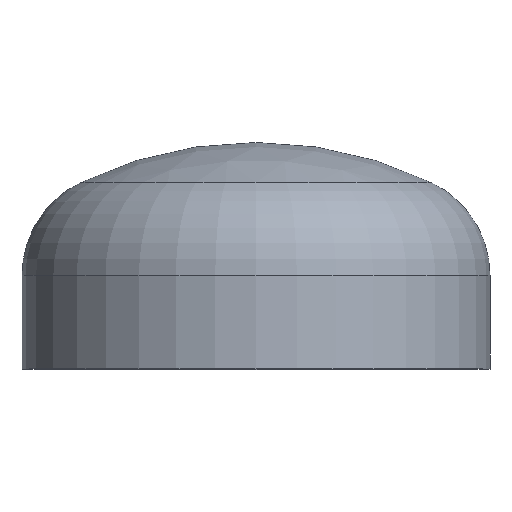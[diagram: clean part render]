
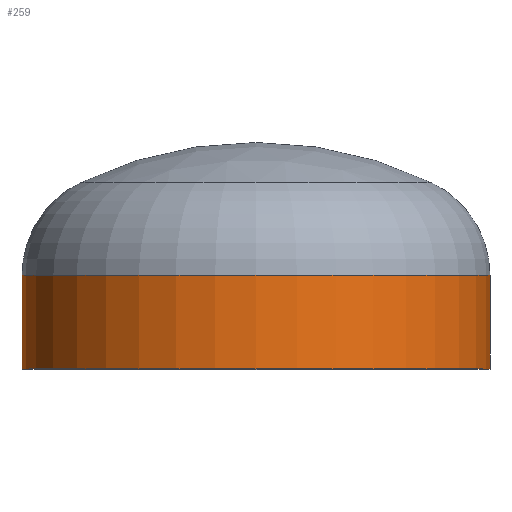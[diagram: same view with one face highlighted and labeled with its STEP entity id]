
A CAD part, top view. The second image highlights one B-rep face of the part: STEP entity #259.
In plain terms, the highlighted cylindrical face has radius 350 mm (diameter 700 mm), a partial arc.
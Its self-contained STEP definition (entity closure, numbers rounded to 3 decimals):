
#30 = AXIS2_PLACEMENT_3D ( 'NONE', #155, #115, #309 ) ;
#40 = LINE ( 'NONE', #283, #302 ) ;
#48 = AXIS2_PLACEMENT_3D ( 'NONE', #172, #391, #380 ) ;
#55 = VERTEX_POINT ( 'NONE', #257 ) ;
#63 = DIRECTION ( 'NONE',  ( 1., 0., 0. ) ) ;
#75 = ORIENTED_EDGE ( 'NONE', *, *, #379, .F. ) ;
#76 = VERTEX_POINT ( 'NONE', #224 ) ;
#80 = ORIENTED_EDGE ( 'NONE', *, *, #363, .T. ) ;
#91 = VERTEX_POINT ( 'NONE', #234 ) ;
#107 = ORIENTED_EDGE ( 'NONE', *, *, #368, .T. ) ;
#112 = ORIENTED_EDGE ( 'NONE', *, *, #381, .F. ) ;
#115 = DIRECTION ( 'NONE',  ( 0., -1., 0. ) ) ;
#123 = CARTESIAN_POINT ( 'NONE',  ( 350., 0., 0. ) ) ;
#141 = VECTOR ( 'NONE', #247, 1000. ) ;
#155 = CARTESIAN_POINT ( 'NONE',  ( 0., 140., 0. ) ) ;
#165 = CARTESIAN_POINT ( 'NONE',  ( -350., 140., 0. ) ) ;
#166 = CIRCLE ( 'NONE', #30, 350. ) ;
#172 = CARTESIAN_POINT ( 'NONE',  ( 0., 0., 0. ) ) ;
#176 = CYLINDRICAL_SURFACE ( 'NONE', #48, 350. ) ;
#211 = DIRECTION ( 'NONE',  ( 0., -1., 0. ) ) ;
#224 = CARTESIAN_POINT ( 'NONE',  ( 350., 140., 0. ) ) ;
#225 = CIRCLE ( 'NONE', #229, 350. ) ;
#229 = AXIS2_PLACEMENT_3D ( 'NONE', #408, #274, #63 ) ;
#234 = CARTESIAN_POINT ( 'NONE',  ( -350., 0., 0. ) ) ;
#240 = VERTEX_POINT ( 'NONE', #165 ) ;
#247 = DIRECTION ( 'NONE',  ( 0., -1., 0. ) ) ;
#257 = CARTESIAN_POINT ( 'NONE',  ( 350., 0., 0. ) ) ;
#259 = ADVANCED_FACE ( 'NONE', ( #260 ), #176, .T. ) ;
#260 = FACE_OUTER_BOUND ( 'NONE', #364, .T. ) ;
#274 = DIRECTION ( 'NONE',  ( 0., -1., 0. ) ) ;
#283 = CARTESIAN_POINT ( 'NONE',  ( -350., 0., 0. ) ) ;
#302 = VECTOR ( 'NONE', #211, 1000. ) ;
#309 = DIRECTION ( 'NONE',  ( 1., 0., 0. ) ) ;
#363 = EDGE_CURVE ( 'NONE', #240, #91, #40, .T. ) ;
#364 = EDGE_LOOP ( 'NONE', ( #107, #80, #112, #75 ) ) ;
#368 = EDGE_CURVE ( 'NONE', #76, #240, #166, .T. ) ;
#379 = EDGE_CURVE ( 'NONE', #76, #55, #410, .T. ) ;
#380 = DIRECTION ( 'NONE',  ( 1., 0., 0. ) ) ;
#381 = EDGE_CURVE ( 'NONE', #55, #91, #225, .T. ) ;
#391 = DIRECTION ( 'NONE',  ( 0., -1., 0. ) ) ;
#408 = CARTESIAN_POINT ( 'NONE',  ( 0., 0., 0. ) ) ;
#410 = LINE ( 'NONE', #123, #141 ) ;
